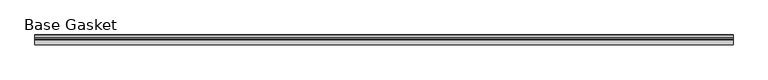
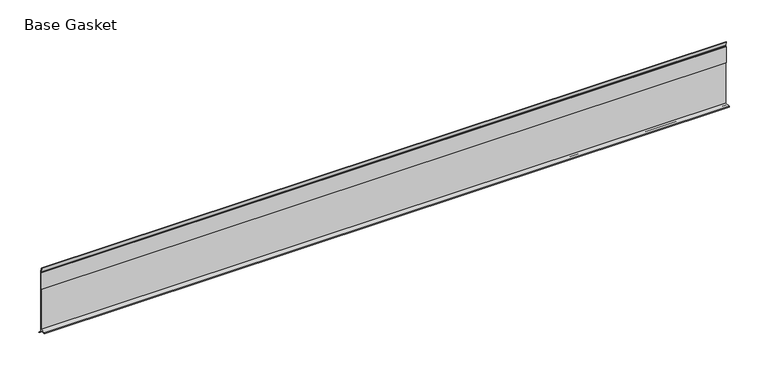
"""IFC4 building model written with IfcOpenShell, lengths in millimetres: furniture geometry, Gasket-Teknion-FHGB-AI_Healthcare-R2021 : Base Gasket."""

from ifc_helpers import new_model, si_unit, frame, origin, place, context, project, spatial, polyline, outline, extrude, source, transform, mapped, element, save


def base_gasket_703c00b6(model_context):
    return source(origin(), model_context, "Body", "SweptSolid", [
        extrude(outline(polyline([(3.7283812, 98.4568417), (3.7283812, 4.3498477), (7.4222115, 0.6560174), (7.8482342, 0.0), (6.8281054, 0.3520979), (2.2043812, 4.3498477), (2.1334222, 6.3818476), (-6.2405171, 6.3818476), (-6.2405171, 7.9398773), (2.2043812, 7.9398773), (2.2043812, 71.4693447), (1.4106313, 71.4693447), (1.4106313, 96.8693477), (2.2043812, 96.8693477), (2.2043812, 98.4568417), (0.6755308, 104.4162708), (0.6755308, 105.2002997), (1.1891543, 104.587663), (3.7283812, 98.4568417)])), frame((-1527.8982117, 0.0, 0.0), z_axis=(1.0, 0.0, 0.0), x_axis=(0.0, 1.0, 0.0)), (0.0, 0.0, 1.0), 1016.0),
    ])


if __name__ == "__main__":
    model = new_model("IFC4")
    model_context = context("Model", 3, world=origin())
    ifc_project = project(units=[si_unit("LENGTHUNIT", "METRE", prefix="MILLI")], contexts=[model_context])
    site = spatial("IfcSite", under=ifc_project)
    building = spatial("IfcBuilding", under=site)
    placement = place(None, origin())
    base_gasket_shape = base_gasket_703c00b6(model_context)
    element("IfcFurniture", 1, ObjectType="Gasket-Teknion-FHGB-AI_Healthcare-R2021 : Base Gasket", at=placement, inside=building, context=model_context, shape_type="MappedRepresentation", body=[
        mapped(base_gasket_shape, transform((0.0, 0.0, 0.0), x_axis=(1.0, 0.0, 0.0), y_axis=(0.0, 1.0, 0.0), z_axis=(0.0, 0.0, 1.0))),
    ])
    save(model, "model.ifc")
